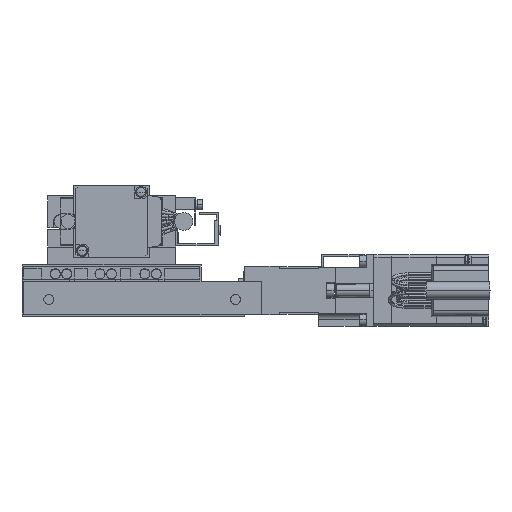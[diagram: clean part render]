
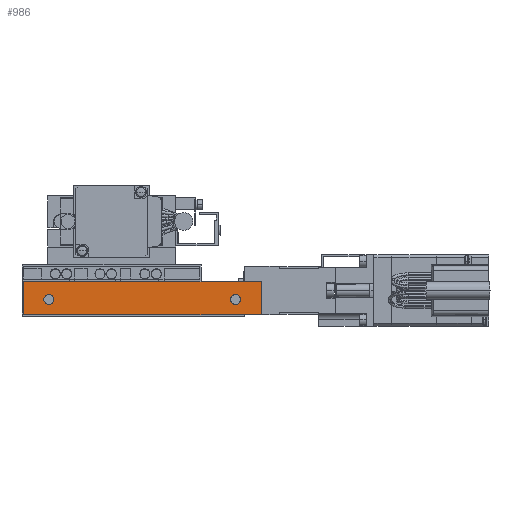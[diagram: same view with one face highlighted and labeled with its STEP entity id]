
A CAD part, front view. The second image highlights one B-rep face of the part: STEP entity #986.
In plain terms, the highlighted planar face has unit normal (0, -1, 0).
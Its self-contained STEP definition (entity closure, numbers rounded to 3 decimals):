
#986=ADVANCED_FACE('',(#2930,#2931,#2932),#2933,.F.);
#2930=FACE_BOUND('',#6246,.T.);
#2931=FACE_BOUND('',#6247,.T.);
#2932=FACE_OUTER_BOUND('',#6248,.T.);
#2933=PLANE('',#6249);
#6246=EDGE_LOOP('',(#11513,#11514));
#6247=EDGE_LOOP('',(#11515,#11516));
#6248=EDGE_LOOP('',(#11517,#11518,#11519,#11520));
#6249=AXIS2_PLACEMENT_3D('',#11521,#11522,#11523);
#11513=ORIENTED_EDGE('',*,*,#22390,.T.);
#11514=ORIENTED_EDGE('',*,*,#22359,.T.);
#11515=ORIENTED_EDGE('',*,*,#22391,.T.);
#11516=ORIENTED_EDGE('',*,*,#22363,.T.);
#11517=ORIENTED_EDGE('',*,*,#22392,.T.);
#11518=ORIENTED_EDGE('',*,*,#22393,.F.);
#11519=ORIENTED_EDGE('',*,*,#22394,.F.);
#11520=ORIENTED_EDGE('',*,*,#22387,.T.);
#11521=CARTESIAN_POINT('',(58.5,-41.8,13.5));
#11522=DIRECTION('',(0.,1.0,0.));
#11523=DIRECTION('',(0.,0.,-1.0));
#22359=EDGE_CURVE('',#26890,#26894,#26896,.T.);
#22363=EDGE_CURVE('',#26898,#26902,#26904,.T.);
#22387=EDGE_CURVE('',#26948,#26946,#26949,.T.);
#22390=EDGE_CURVE('',#26894,#26890,#26953,.T.);
#22391=EDGE_CURVE('',#26902,#26898,#26954,.T.);
#22392=EDGE_CURVE('',#26946,#26955,#26956,.T.);
#22393=EDGE_CURVE('',#26957,#26955,#26958,.T.);
#22394=EDGE_CURVE('',#26948,#26957,#26959,.T.);
#26890=VERTEX_POINT('',#33994);
#26894=VERTEX_POINT('',#33999);
#26896=CIRCLE('',#34002,1.95);
#26898=VERTEX_POINT('',#34004);
#26902=VERTEX_POINT('',#34009);
#26904=CIRCLE('',#34012,1.95);
#26946=VERTEX_POINT('',#34068);
#26948=VERTEX_POINT('',#34071);
#26949=LINE('',#34072,#34073);
#26953=CIRCLE('',#34079,1.95);
#26954=CIRCLE('',#34080,1.95);
#26955=VERTEX_POINT('',#34081);
#26956=LINE('',#34082,#34083);
#26957=VERTEX_POINT('',#34084);
#26958=LINE('',#34085,#34086);
#26959=LINE('',#34087,#34088);
#33994=CARTESIAN_POINT('',(-22.55,-41.8,6.5));
#33999=CARTESIAN_POINT('',(-26.45,-41.8,6.5));
#34002=AXIS2_PLACEMENT_3D('',#43195,#43196,#43197);
#34004=CARTESIAN_POINT('',(50.45,-41.8,6.5));
#34009=CARTESIAN_POINT('',(46.55,-41.8,6.5));
#34012=AXIS2_PLACEMENT_3D('',#43203,#43204,#43205);
#34068=CARTESIAN_POINT('',(-34.5,-41.8,13.5));
#34071=CARTESIAN_POINT('',(58.5,-41.8,13.5));
#34072=CARTESIAN_POINT('',(58.5,-41.8,13.5));
#34073=VECTOR('',#43245,1000.0);
#34079=AXIS2_PLACEMENT_3D('',#43248,#43249,#43250);
#34080=AXIS2_PLACEMENT_3D('',#43251,#43252,#43253);
#34081=CARTESIAN_POINT('',(-34.5,-41.8,0.5));
#34082=CARTESIAN_POINT('',(-34.5,-41.8,13.5));
#34083=VECTOR('',#43254,1000.0);
#34084=CARTESIAN_POINT('',(58.5,-41.8,0.5));
#34085=CARTESIAN_POINT('',(58.5,-41.8,0.5));
#34086=VECTOR('',#43255,1000.0);
#34087=CARTESIAN_POINT('',(58.5,-41.8,13.5));
#34088=VECTOR('',#43256,1000.0);
#43195=CARTESIAN_POINT('',(-24.5,-41.8,6.5));
#43196=DIRECTION('',(0.,1.0,0.));
#43197=DIRECTION('',(-1.0,0.,0.));
#43203=CARTESIAN_POINT('',(48.5,-41.8,6.5));
#43204=DIRECTION('',(0.,1.0,0.));
#43205=DIRECTION('',(-1.0,0.,0.));
#43245=DIRECTION('',(-1.0,0.,0.));
#43248=CARTESIAN_POINT('',(-24.5,-41.8,6.5));
#43249=DIRECTION('',(0.,1.0,0.));
#43250=DIRECTION('',(-1.0,0.,0.));
#43251=CARTESIAN_POINT('',(48.5,-41.8,6.5));
#43252=DIRECTION('',(0.,1.0,0.));
#43253=DIRECTION('',(-1.0,0.,0.));
#43254=DIRECTION('',(0.,0.,-1.0));
#43255=DIRECTION('',(-1.0,0.,0.));
#43256=DIRECTION('',(0.,0.,-1.0));
